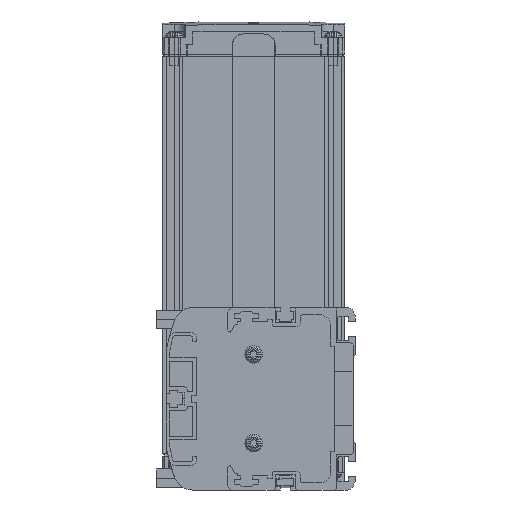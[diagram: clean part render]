
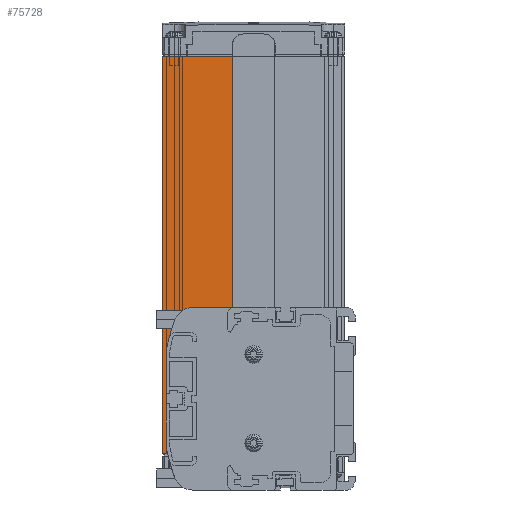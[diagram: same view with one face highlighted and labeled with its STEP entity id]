
A CAD part, left-side view. The second image highlights one B-rep face of the part: STEP entity #75728.
In plain terms, the highlighted planar face has unit normal (-1, 0, 0).
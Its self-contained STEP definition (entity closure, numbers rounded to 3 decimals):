
#74310=DIRECTION('',(0.,-1.,0.));
#74311=VECTOR('',#74310,17.9);
#74312=CARTESIAN_POINT('',(3.,70.5,27.5));
#74313=LINE('',#74312,#74311);
#74318=DIRECTION('',(0.,0.,1.));
#74319=VECTOR('',#74318,51.);
#74320=CARTESIAN_POINT('',(3.,70.5,-23.5));
#74321=LINE('',#74320,#74319);
#74326=DIRECTION('',(0.,-1.,0.));
#74327=VECTOR('',#74326,12.);
#74328=CARTESIAN_POINT('',(3.,82.5,-23.5));
#74329=LINE('',#74328,#74327);
#74330=DIRECTION('',(0.,0.,-1.));
#74331=VECTOR('',#74330,170.);
#74332=CARTESIAN_POINT('',(3.,82.5,146.5));
#74333=LINE('',#74332,#74331);
#74334=DIRECTION('',(0.,1.,0.));
#74335=VECTOR('',#74334,29.9);
#74336=CARTESIAN_POINT('',(3.,52.6,146.5));
#74337=LINE('',#74336,#74335);
#74372=DIRECTION('',(0.,0.,1.));
#74373=VECTOR('',#74372,119.);
#74374=CARTESIAN_POINT('',(3.,52.6,27.5));
#74375=LINE('',#74374,#74373);
#74529=CARTESIAN_POINT('',(3.,70.5,-23.5));
#74530=VERTEX_POINT('',#74529);
#74531=CARTESIAN_POINT('',(3.,82.5,-23.5));
#74532=VERTEX_POINT('',#74531);
#74667=CARTESIAN_POINT('',(3.,52.6,146.5));
#74668=VERTEX_POINT('',#74667);
#74669=CARTESIAN_POINT('',(3.,82.5,146.5));
#74670=VERTEX_POINT('',#74669);
#74727=CARTESIAN_POINT('',(3.,70.5,27.5));
#74728=CARTESIAN_POINT('',(3.,52.6,27.5));
#74729=VERTEX_POINT('',#74727);
#74730=VERTEX_POINT('',#74728);
#75713=CARTESIAN_POINT('',(3.,67.55,61.5));
#75714=DIRECTION('',(1.,0.,0.));
#75715=DIRECTION('',(0.,-1.,0.));
#75716=AXIS2_PLACEMENT_3D('',#75713,#75714,#75715);
#75717=PLANE('',#75716);
#75718=ORIENTED_EDGE('',*,*,#75689,.F.);
#75719=ORIENTED_EDGE('',*,*,#75706,.F.);
#75720=ORIENTED_EDGE('',*,*,#74834,.F.);
#75722=ORIENTED_EDGE('',*,*,#75721,.F.);
#75723=ORIENTED_EDGE('',*,*,#75245,.F.);
#75725=ORIENTED_EDGE('',*,*,#75724,.F.);
#75726=EDGE_LOOP('',(#75718,#75719,#75720,#75722,#75723,#75725));
#75727=FACE_OUTER_BOUND('',#75726,.F.);
#75728=ADVANCED_FACE('',(#75727),#75717,.F.);
#74834=EDGE_CURVE('',#74532,#74530,#74329,.T.);
#75245=EDGE_CURVE('',#74668,#74670,#74337,.T.);
#75689=EDGE_CURVE('',#74729,#74730,#74313,.T.);
#75706=EDGE_CURVE('',#74530,#74729,#74321,.T.);
#75721=EDGE_CURVE('',#74670,#74532,#74333,.T.);
#75724=EDGE_CURVE('',#74730,#74668,#74375,.T.);
